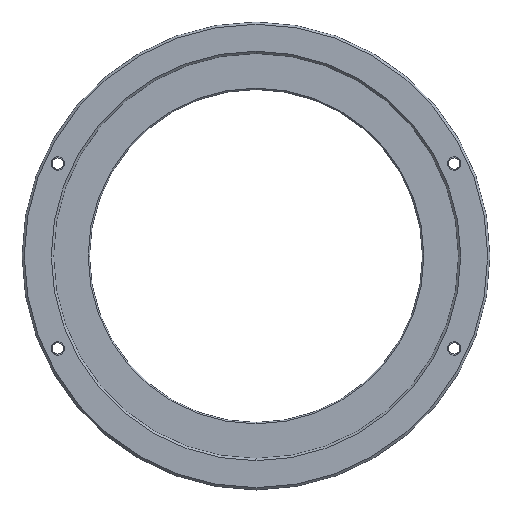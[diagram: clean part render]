
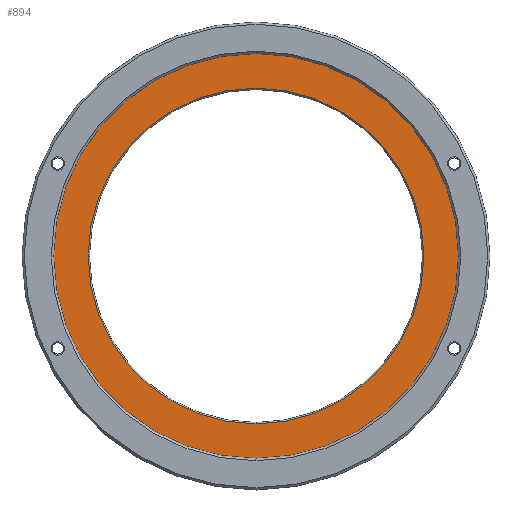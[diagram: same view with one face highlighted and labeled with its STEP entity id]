
A CAD part, top view. The second image highlights one B-rep face of the part: STEP entity #894.
In plain terms, the highlighted planar face has unit normal (0, 0, 1).
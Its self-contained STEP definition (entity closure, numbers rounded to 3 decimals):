
#328=CARTESIAN_POINT('',(0.,0.,2.));
#329=DIRECTION('',(0.,0.,1.));
#330=DIRECTION('',(0.,1.,0.));
#331=AXIS2_PLACEMENT_3D('',#328,#329,#330);
#337=CARTESIAN_POINT('',(0.,0.,2.));
#338=DIRECTION('',(0.,0.,-1.));
#339=DIRECTION('',(0.,1.,0.));
#340=AXIS2_PLACEMENT_3D('',#337,#338,#339);
#345=CARTESIAN_POINT('',(0.,0.,2.));
#346=DIRECTION('',(0.,0.,1.));
#347=DIRECTION('',(0.,1.,0.));
#348=AXIS2_PLACEMENT_3D('',#345,#346,#347);
#353=CARTESIAN_POINT('',(0.,0.,2.));
#354=DIRECTION('',(0.,0.,1.));
#355=DIRECTION('',(0.,-1.,0.));
#356=AXIS2_PLACEMENT_3D('',#353,#354,#355);
#801=CARTESIAN_POINT('',(0.,45.,2.));
#802=CARTESIAN_POINT('',(0.,-45.,2.));
#803=VERTEX_POINT('',#801);
#804=VERTEX_POINT('',#802);
#865=CARTESIAN_POINT('',(0.,37.3,2.));
#866=CARTESIAN_POINT('',(0.,-37.3,2.));
#867=VERTEX_POINT('',#865);
#868=VERTEX_POINT('',#866);
#877=CARTESIAN_POINT('',(0.,0.,2.));
#878=DIRECTION('',(0.,0.,-1.));
#879=DIRECTION('',(0.,-1.,0.));
#880=AXIS2_PLACEMENT_3D('',#877,#878,#879);
#881=PLANE('',#880);
#883=ORIENTED_EDGE('',*,*,#882,.F.);
#885=ORIENTED_EDGE('',*,*,#884,.T.);
#886=EDGE_LOOP('',(#883,#885));
#887=FACE_OUTER_BOUND('',#886,.F.);
#889=ORIENTED_EDGE('',*,*,#888,.T.);
#891=ORIENTED_EDGE('',*,*,#890,.T.);
#892=EDGE_LOOP('',(#889,#891));
#893=FACE_BOUND('',#892,.F.);
#332=CIRCLE('',#331,45.);
#341=CIRCLE('',#340,45.);
#349=CIRCLE('',#348,37.3);
#357=CIRCLE('',#356,37.3);
#882=EDGE_CURVE('',#803,#804,#332,.T.);
#884=EDGE_CURVE('',#803,#804,#341,.T.);
#888=EDGE_CURVE('',#867,#868,#349,.T.);
#890=EDGE_CURVE('',#868,#867,#357,.T.);
#894=ADVANCED_FACE('',(#887,#893),#881,.F.);
